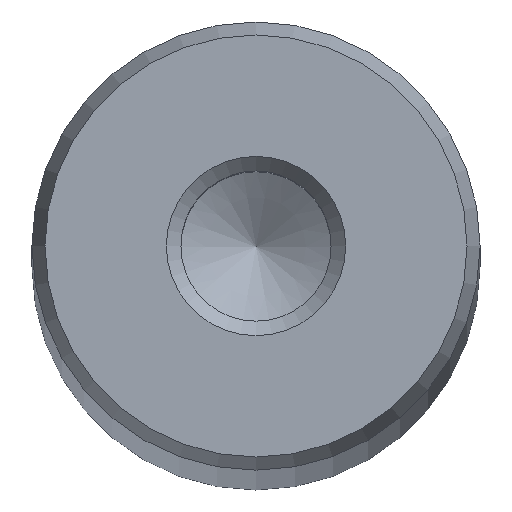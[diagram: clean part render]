
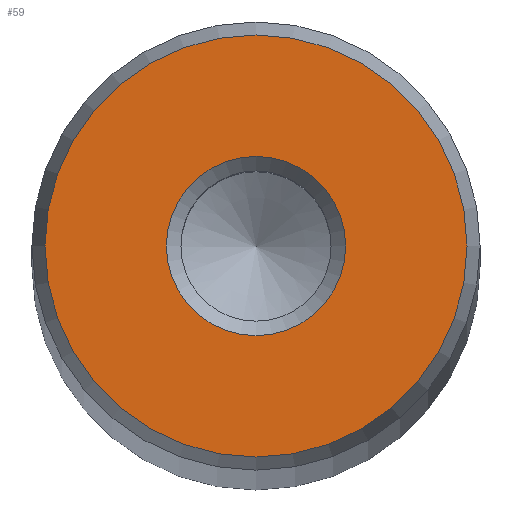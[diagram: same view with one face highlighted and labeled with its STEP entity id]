
A CAD part, top view. The second image highlights one B-rep face of the part: STEP entity #59.
In plain terms, the highlighted planar face has unit normal (0, 0, 1).
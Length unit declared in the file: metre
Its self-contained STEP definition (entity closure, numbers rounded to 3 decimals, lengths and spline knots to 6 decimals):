
#59 = ADVANCED_FACE( '', ( #124, #125 ), #126, .T. );
#124 = FACE_OUTER_BOUND( '', #183, .T. );
#125 = FACE_BOUND( '', #184, .T. );
#126 = PLANE( '', #185 );
#183 = EDGE_LOOP( '', ( #258 ) );
#184 = EDGE_LOOP( '', ( #259 ) );
#185 = AXIS2_PLACEMENT_3D( '', #260, #261, #262 );
#258 = ORIENTED_EDGE( '', *, *, #274, .T. );
#259 = ORIENTED_EDGE( '', *, *, #287, .T. );
#260 = CARTESIAN_POINT( '', ( 0., 0., 0.636 ) );
#261 = DIRECTION( '', ( 0., 0., 1. ) );
#262 = DIRECTION( '', ( 1., 0., 0. ) );
#274 = EDGE_CURVE( '', #304, #304, #305, .T. );
#287 = EDGE_CURVE( '', #321, #321, #322, .T. );
#304 = VERTEX_POINT( '', #341 );
#305 = CIRCLE( '', #342, 0.011772 );
#321 = VERTEX_POINT( '', #358 );
#322 = CIRCLE( '', #359, 0.005 );
#341 = CARTESIAN_POINT( '', ( 0.011772, 0., 0.636 ) );
#342 = AXIS2_PLACEMENT_3D( '', #379, #380, #381 );
#358 = CARTESIAN_POINT( '', ( 0.005, 0., 0.636 ) );
#359 = AXIS2_PLACEMENT_3D( '', #397, #398, #399 );
#379 = CARTESIAN_POINT( '', ( 0., 0., 0.636 ) );
#380 = DIRECTION( '', ( 0., 0., 1. ) );
#381 = DIRECTION( '', ( 1., 0., 0. ) );
#397 = CARTESIAN_POINT( '', ( 0., 0., 0.636 ) );
#398 = DIRECTION( '', ( 0., 0., -1. ) );
#399 = DIRECTION( '', ( 1., 0., 0. ) );
